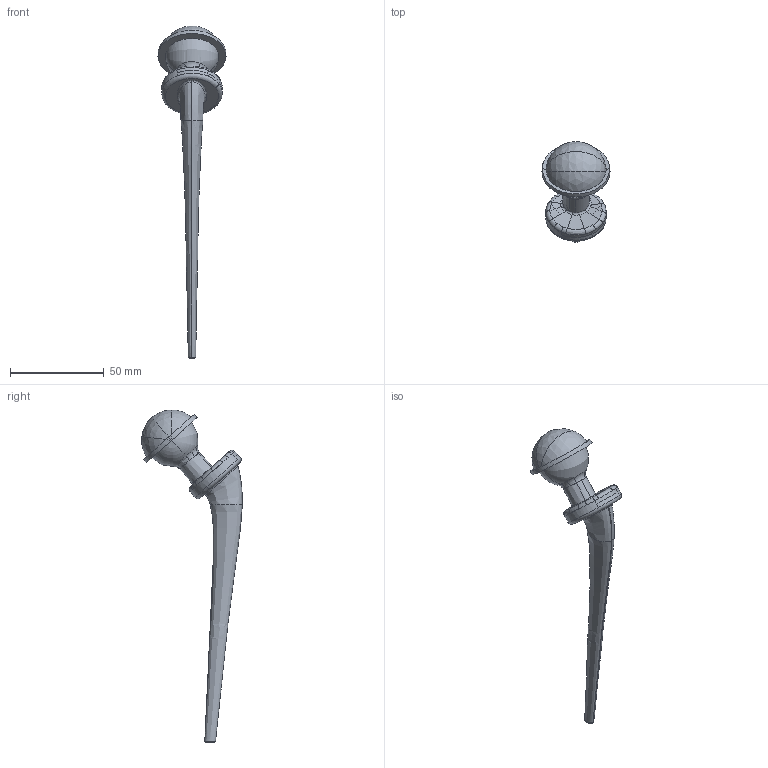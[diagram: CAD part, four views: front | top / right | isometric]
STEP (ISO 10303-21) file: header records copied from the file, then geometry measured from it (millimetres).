
FILE_DESCRIPTION(('STEP AP214'),'1');
FILE_NAME('Hip Implant.stp','2025-08-13T16:41:29',(' '),(' '),'Spatial InterOp 3D',' ',' ');
FILE_SCHEMA(('AUTOMOTIVE_DESIGN { 1 0 10303 214 1 1 1 1 }'));
Length unit declared in the file: metre
Products named in the file (1): PartBody
Bounding box: 36.3 x 53.66 x 177.19 mm (x, y, z)
Volume: 33289.8 mm3; surface area: 12415.3 mm2
Topology: 2 solids, 2 shells, 123 faces, 313 edges, 174 vertices
Faces by surface type: torus 69, bspline 22, sphere 12, cylinder 9, revolution 7, plane 4
Entity records: 11686 total; most frequent: CARTESIAN_POINT 8201, ORIENTED_EDGE 582, DIRECTION 511, EDGE_CURVE 291, AXIS2_PLACEMENT_3D 240, VERTEX_POINT 174, CIRCLE 141, EDGE_LOOP 125
